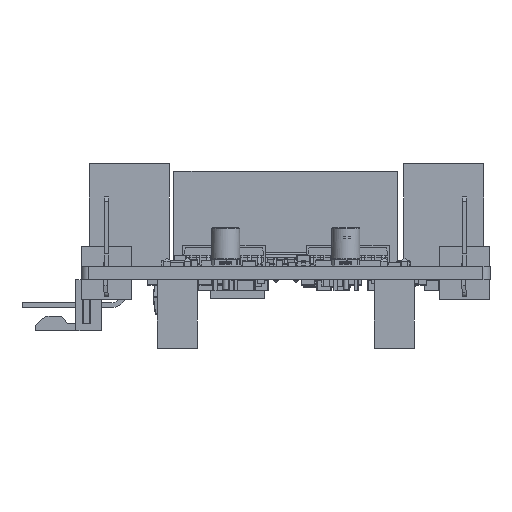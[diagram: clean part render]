
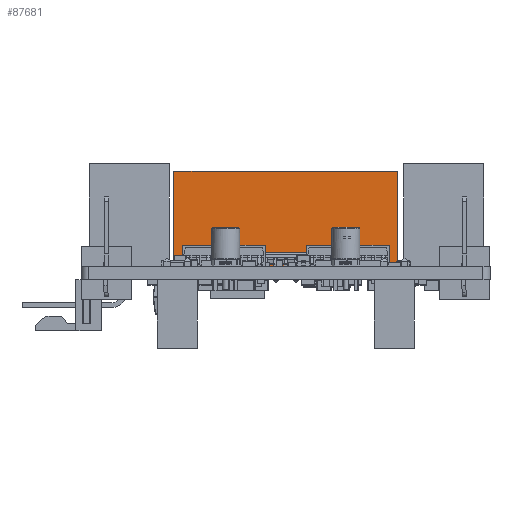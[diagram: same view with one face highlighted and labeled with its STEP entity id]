
A CAD part, front view. The second image highlights one B-rep face of the part: STEP entity #87681.
In plain terms, the highlighted planar face has unit normal (0, -1, 0) as drawn and (0, 1, 0) by its records, which use the part's own axes.
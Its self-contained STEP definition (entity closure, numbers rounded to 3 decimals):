
#87535 = VERTEX_POINT('',#87536);
#87536 = CARTESIAN_POINT('',(-5.017,5.817,0.));
#87553 = VERTEX_POINT('',#87554);
#87554 = CARTESIAN_POINT('',(-5.017,5.817,11.836));
#87560 = EDGE_CURVE('',#87553,#87535,#87561,.T.);
#87561 = LINE('',#87562,#87563);
#87562 = CARTESIAN_POINT('',(-5.017,5.817,3.048));
#87563 = VECTOR('',#87564,1.);
#87564 = DIRECTION('',(-0.,-0.,-1.));
#87655 = VERTEX_POINT('',#87656);
#87656 = CARTESIAN_POINT('',(22.797,5.817,0.));
#87662 = EDGE_CURVE('',#87663,#87655,#87665,.T.);
#87663 = VERTEX_POINT('',#87664);
#87664 = CARTESIAN_POINT('',(22.797,5.817,11.836));
#87665 = LINE('',#87666,#87667);
#87666 = CARTESIAN_POINT('',(22.797,5.817,3.048));
#87667 = VECTOR('',#87668,1.);
#87668 = DIRECTION('',(-0.,-0.,-1.));
#87681 = ADVANCED_FACE('',(#87682),#87698,.F.);
#87682 = FACE_BOUND('',#87683,.T.);
#87683 = EDGE_LOOP('',(#87684,#87690,#87691,#87697));
#87684 = ORIENTED_EDGE('',*,*,#87685,.T.);
#87685 = EDGE_CURVE('',#87655,#87535,#87686,.T.);
#87686 = LINE('',#87687,#87688);
#87687 = CARTESIAN_POINT('',(-5.017,5.817,0.));
#87688 = VECTOR('',#87689,1.);
#87689 = DIRECTION('',(-1.,0.,-0.));
#87690 = ORIENTED_EDGE('',*,*,#87560,.F.);
#87691 = ORIENTED_EDGE('',*,*,#87692,.F.);
#87692 = EDGE_CURVE('',#87663,#87553,#87693,.T.);
#87693 = LINE('',#87694,#87695);
#87694 = CARTESIAN_POINT('',(22.797,5.817,11.836));
#87695 = VECTOR('',#87696,1.);
#87696 = DIRECTION('',(-1.,0.,0.));
#87697 = ORIENTED_EDGE('',*,*,#87662,.T.);
#87698 = PLANE('',#87699);
#87699 = AXIS2_PLACEMENT_3D('',#87700,#87701,#87702);
#87700 = CARTESIAN_POINT('',(-5.017,5.817,3.048));
#87701 = DIRECTION('',(0.,-1.,0.));
#87702 = DIRECTION('',(1.,0.,0.));
